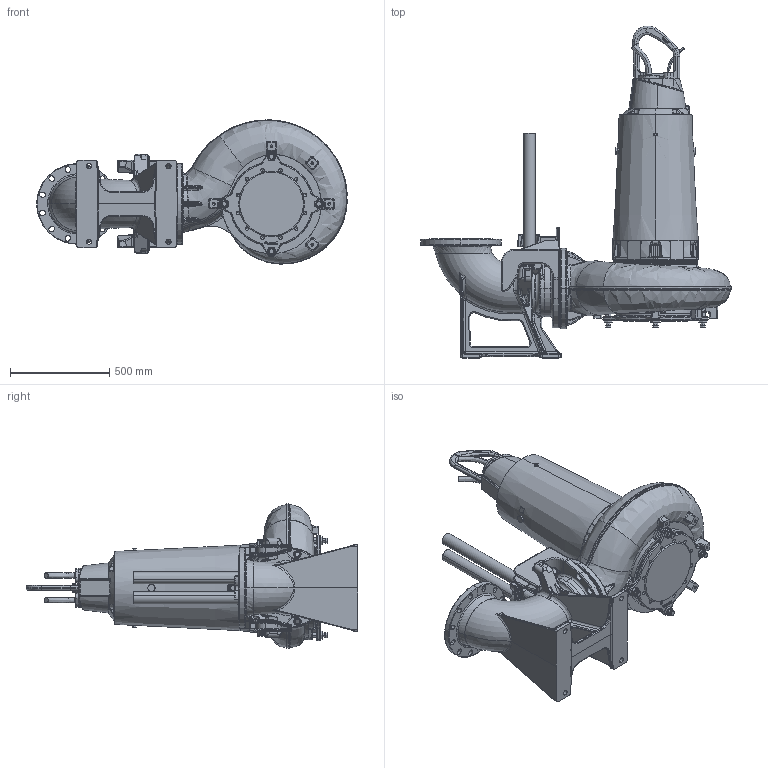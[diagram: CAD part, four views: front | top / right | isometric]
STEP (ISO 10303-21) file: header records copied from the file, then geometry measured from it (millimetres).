
FILE_DESCRIPTION (( 'STEP AP214' ), '1' );
FILE_NAME ('PE4_XFP250J-CB2_WET 2guide_A_NG2.STEP', '2017-02-02T10:41:24', ( '' ), ( '' ), 'SwSTEP 2.0', 'SolidWorks 2017', '' );
FILE_SCHEMA (( 'AUTOMOTIVE_DESIGN' ));
Length unit declared in the file: millimetre
Products named in the file (1): PE4_XFP250J-CB2_WET 2guide_A_NG2
Bounding box: 1561.43 x 1668.44 x 724.27 mm (x, y, z)
Volume: 264334795.7 mm3; surface area: 5632552.5 mm2
Topology: 3 solids, 20 shells, 4501 faces, 11172 edges, 6644 vertices
Faces by surface type: bspline 1402, cylinder 1196, plane 1077, cone 373, torus 341, sphere 112
Entity records: 357631 total; most frequent: CARTESIAN_POINT 213276, ORIENTED_EDGE 21976, DIRECTION 17000, EDGE_CURVE 10988, AXIS2_PLACEMENT_3D 6722, VERTEX_POINT 6642, EDGE_LOOP 4762, UNCERTAINTY_MEASURE_WITH_UNIT 4506
